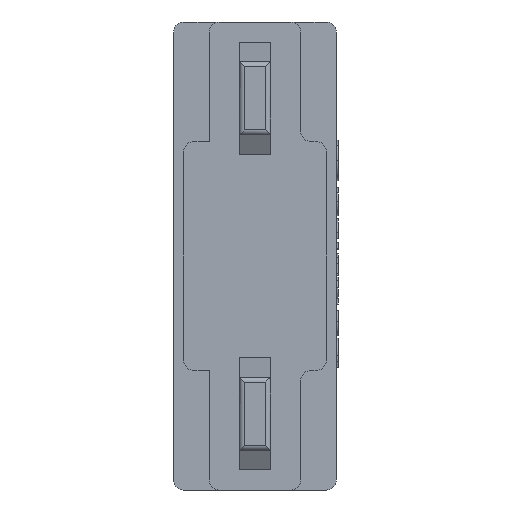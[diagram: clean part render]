
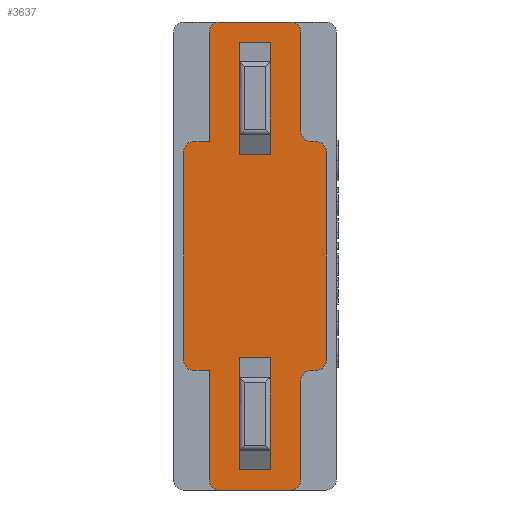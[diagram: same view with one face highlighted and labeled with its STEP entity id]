
A CAD part, front view. The second image highlights one B-rep face of the part: STEP entity #3637.
In plain terms, the highlighted planar face has unit normal (0, -1, 0).
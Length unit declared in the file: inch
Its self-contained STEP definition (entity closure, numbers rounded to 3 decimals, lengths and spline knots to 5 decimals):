
#20=CIRCLE('',#3800,0.01);
#28=CIRCLE('',#3811,0.01);
#29=CIRCLE('',#3814,0.01);
#31=CIRCLE('',#3817,0.01);
#32=CIRCLE('',#3818,0.01);
#33=CIRCLE('',#3819,0.01);
#34=CIRCLE('',#3820,0.01);
#35=CIRCLE('',#3821,0.01);
#36=CIRCLE('',#3822,0.01);
#37=CIRCLE('',#3823,0.01);
#109=FACE_BOUND('',#553,.T.);
#110=FACE_BOUND('',#554,.T.);
#342=FACE_OUTER_BOUND('',#552,.T.);
#552=EDGE_LOOP('',(#3195,#3196,#3197,#3198,#3199,#3200,#3201,#3202,#3203,
#3204,#3205,#3206,#3207,#3208,#3209,#3210,#3211,#3212,#3213,#3214,#3215,
#3216));
#553=EDGE_LOOP('',(#3217,#3218,#3219,#3220));
#554=EDGE_LOOP('',(#3221,#3222,#3223,#3224));
#843=LINE('',#6475,#1191);
#858=LINE('',#6522,#1206);
#860=LINE('',#6527,#1208);
#864=LINE('',#6535,#1212);
#866=LINE('',#6538,#1214);
#867=LINE('',#6541,#1215);
#872=LINE('',#6550,#1220);
#873=LINE('',#6552,#1221);
#883=LINE('',#6591,#1231);
#887=LINE('',#6601,#1235);
#891=LINE('',#6614,#1239);
#892=LINE('',#6618,#1240);
#893=LINE('',#6620,#1241);
#894=LINE('',#6624,#1242);
#895=LINE('',#6627,#1243);
#896=LINE('',#6631,#1244);
#897=LINE('',#6634,#1245);
#898=LINE('',#6638,#1246);
#899=LINE('',#6642,#1247);
#900=LINE('',#6643,#1248);
#1191=VECTOR('',#4297,0.3937);
#1206=VECTOR('',#4342,0.3937);
#1208=VECTOR('',#4348,0.3937);
#1212=VECTOR('',#4356,0.3937);
#1214=VECTOR('',#4360,0.3937);
#1215=VECTOR('',#4363,0.3937);
#1220=VECTOR('',#4372,0.3937);
#1221=VECTOR('',#4375,0.3937);
#1231=VECTOR('',#4409,0.3937);
#1235=VECTOR('',#4419,0.3937);
#1239=VECTOR('',#4431,0.3937);
#1240=VECTOR('',#4434,0.3937);
#1241=VECTOR('',#4435,0.3937);
#1242=VECTOR('',#4438,0.3937);
#1243=VECTOR('',#4441,0.3937);
#1244=VECTOR('',#4444,0.3937);
#1245=VECTOR('',#4447,0.3937);
#1246=VECTOR('',#4450,0.3937);
#1247=VECTOR('',#4453,0.3937);
#1248=VECTOR('',#4454,0.3937);
#1685=VERTEX_POINT('',#6472);
#1686=VERTEX_POINT('',#6474);
#1702=VERTEX_POINT('',#6519);
#1703=VERTEX_POINT('',#6521);
#1704=VERTEX_POINT('',#6526);
#1706=VERTEX_POINT('',#6534);
#1707=VERTEX_POINT('',#6540);
#1709=VERTEX_POINT('',#6548);
#1712=VERTEX_POINT('',#6557);
#1713=VERTEX_POINT('',#6559);
#1726=VERTEX_POINT('',#6590);
#1727=VERTEX_POINT('',#6594);
#1728=VERTEX_POINT('',#6596);
#1729=VERTEX_POINT('',#6600);
#1730=VERTEX_POINT('',#6604);
#1731=VERTEX_POINT('',#6605);
#1734=VERTEX_POINT('',#6613);
#1735=VERTEX_POINT('',#6615);
#1736=VERTEX_POINT('',#6617);
#1737=VERTEX_POINT('',#6619);
#1738=VERTEX_POINT('',#6621);
#1739=VERTEX_POINT('',#6623);
#1740=VERTEX_POINT('',#6626);
#1741=VERTEX_POINT('',#6628);
#1742=VERTEX_POINT('',#6630);
#1743=VERTEX_POINT('',#6633);
#1744=VERTEX_POINT('',#6635);
#1745=VERTEX_POINT('',#6637);
#1746=VERTEX_POINT('',#6639);
#1747=VERTEX_POINT('',#6641);
#2167=EDGE_CURVE('',#1686,#1685,#843,.T.);
#2190=EDGE_CURVE('',#1703,#1702,#858,.T.);
#2192=EDGE_CURVE('',#1685,#1704,#860,.T.);
#2196=EDGE_CURVE('',#1706,#1686,#864,.T.);
#2198=EDGE_CURVE('',#1704,#1706,#866,.T.);
#2199=EDGE_CURVE('',#1707,#1703,#867,.T.);
#2204=EDGE_CURVE('',#1702,#1709,#872,.T.);
#2205=EDGE_CURVE('',#1709,#1707,#873,.T.);
#2208=EDGE_CURVE('',#1712,#1713,#20,.T.);
#2224=EDGE_CURVE('',#1713,#1726,#883,.T.);
#2227=EDGE_CURVE('',#1727,#1728,#28,.T.);
#2229=EDGE_CURVE('',#1729,#1728,#887,.T.);
#2231=EDGE_CURVE('',#1730,#1731,#29,.T.);
#2235=EDGE_CURVE('',#1734,#1730,#891,.T.);
#2236=EDGE_CURVE('',#1735,#1734,#31,.T.);
#2237=EDGE_CURVE('',#1736,#1735,#892,.T.);
#2238=EDGE_CURVE('',#1737,#1736,#893,.T.);
#2239=EDGE_CURVE('',#1738,#1737,#32,.T.);
#2240=EDGE_CURVE('',#1738,#1739,#894,.T.);
#2241=EDGE_CURVE('',#1729,#1739,#33,.T.);
#2242=EDGE_CURVE('',#1740,#1727,#895,.T.);
#2243=EDGE_CURVE('',#1741,#1740,#34,.T.);
#2244=EDGE_CURVE('',#1742,#1741,#896,.T.);
#2245=EDGE_CURVE('',#1726,#1742,#35,.T.);
#2246=EDGE_CURVE('',#1712,#1743,#897,.T.);
#2247=EDGE_CURVE('',#1744,#1743,#36,.T.);
#2248=EDGE_CURVE('',#1744,#1745,#898,.T.);
#2249=EDGE_CURVE('',#1746,#1745,#37,.T.);
#2250=EDGE_CURVE('',#1747,#1746,#899,.T.);
#2251=EDGE_CURVE('',#1731,#1747,#900,.T.);
#3195=ORIENTED_EDGE('',*,*,#2231,.F.);
#3196=ORIENTED_EDGE('',*,*,#2235,.F.);
#3197=ORIENTED_EDGE('',*,*,#2236,.F.);
#3198=ORIENTED_EDGE('',*,*,#2237,.F.);
#3199=ORIENTED_EDGE('',*,*,#2238,.F.);
#3200=ORIENTED_EDGE('',*,*,#2239,.F.);
#3201=ORIENTED_EDGE('',*,*,#2240,.T.);
#3202=ORIENTED_EDGE('',*,*,#2241,.F.);
#3203=ORIENTED_EDGE('',*,*,#2229,.T.);
#3204=ORIENTED_EDGE('',*,*,#2227,.F.);
#3205=ORIENTED_EDGE('',*,*,#2242,.F.);
#3206=ORIENTED_EDGE('',*,*,#2243,.F.);
#3207=ORIENTED_EDGE('',*,*,#2244,.F.);
#3208=ORIENTED_EDGE('',*,*,#2245,.F.);
#3209=ORIENTED_EDGE('',*,*,#2224,.F.);
#3210=ORIENTED_EDGE('',*,*,#2208,.F.);
#3211=ORIENTED_EDGE('',*,*,#2246,.T.);
#3212=ORIENTED_EDGE('',*,*,#2247,.F.);
#3213=ORIENTED_EDGE('',*,*,#2248,.T.);
#3214=ORIENTED_EDGE('',*,*,#2249,.F.);
#3215=ORIENTED_EDGE('',*,*,#2250,.F.);
#3216=ORIENTED_EDGE('',*,*,#2251,.F.);
#3217=ORIENTED_EDGE('',*,*,#2167,.T.);
#3218=ORIENTED_EDGE('',*,*,#2192,.T.);
#3219=ORIENTED_EDGE('',*,*,#2198,.T.);
#3220=ORIENTED_EDGE('',*,*,#2196,.T.);
#3221=ORIENTED_EDGE('',*,*,#2190,.T.);
#3222=ORIENTED_EDGE('',*,*,#2204,.T.);
#3223=ORIENTED_EDGE('',*,*,#2205,.T.);
#3224=ORIENTED_EDGE('',*,*,#2199,.T.);
#3458=PLANE('',#3816);
#3637=ADVANCED_FACE('',(#342,#109,#110),#3458,.T.);
#3800=AXIS2_PLACEMENT_3D('',#6560,#4381,#4382);
#3811=AXIS2_PLACEMENT_3D('',#6597,#4414,#4415);
#3814=AXIS2_PLACEMENT_3D('',#6606,#4423,#4424);
#3816=AXIS2_PLACEMENT_3D('',#6612,#4429,#4430);
#3817=AXIS2_PLACEMENT_3D('',#6616,#4432,#4433);
#3818=AXIS2_PLACEMENT_3D('',#6622,#4436,#4437);
#3819=AXIS2_PLACEMENT_3D('',#6625,#4439,#4440);
#3820=AXIS2_PLACEMENT_3D('',#6629,#4442,#4443);
#3821=AXIS2_PLACEMENT_3D('',#6632,#4445,#4446);
#3822=AXIS2_PLACEMENT_3D('',#6636,#4448,#4449);
#3823=AXIS2_PLACEMENT_3D('',#6640,#4451,#4452);
#4297=DIRECTION('',(0.,0.,1.));
#4342=DIRECTION('',(0.,0.,1.));
#4348=DIRECTION('',(1.,0.,0.));
#4356=DIRECTION('',(-1.,0.,0.));
#4360=DIRECTION('',(0.,0.,-1.));
#4363=DIRECTION('',(-1.,0.,0.));
#4372=DIRECTION('',(1.,0.,0.));
#4375=DIRECTION('',(0.,0.,-1.));
#4381=DIRECTION('center_axis',(0.,-1.,0.));
#4382=DIRECTION('ref_axis',(-0.707,0.,-0.707));
#4409=DIRECTION('',(1.,0.,0.));
#4414=DIRECTION('center_axis',(0.,-1.,0.));
#4415=DIRECTION('ref_axis',(-0.707,0.,0.707));
#4419=DIRECTION('',(0.,0.,1.));
#4423=DIRECTION('center_axis',(0.,1.,0.));
#4424=DIRECTION('ref_axis',(-0.707,0.,0.707));
#4429=DIRECTION('center_axis',(0.,-1.,0.));
#4430=DIRECTION('ref_axis',(1.,0.,0.));
#4431=DIRECTION('',(0.,0.,1.));
#4432=DIRECTION('center_axis',(0.,1.,0.));
#4433=DIRECTION('ref_axis',(-0.707,0.,-0.707));
#4434=DIRECTION('',(-1.,0.,0.));
#4435=DIRECTION('',(0.,0.,1.));
#4436=DIRECTION('center_axis',(0.,1.,0.));
#4437=DIRECTION('ref_axis',(-0.707,0.,-0.707));
#4438=DIRECTION('',(1.,0.,0.));
#4439=DIRECTION('center_axis',(0.,1.,0.));
#4440=DIRECTION('ref_axis',(0.707,0.,-0.707));
#4441=DIRECTION('',(-1.,0.,0.));
#4442=DIRECTION('center_axis',(0.,1.,0.));
#4443=DIRECTION('ref_axis',(0.707,0.,-0.707));
#4444=DIRECTION('',(0.,0.,-1.));
#4445=DIRECTION('center_axis',(0.,1.,0.));
#4446=DIRECTION('ref_axis',(0.707,0.,0.707));
#4447=DIRECTION('',(0.,0.,1.));
#4448=DIRECTION('center_axis',(0.,1.,0.));
#4449=DIRECTION('ref_axis',(0.707,0.,0.707));
#4450=DIRECTION('',(-1.,0.,0.));
#4451=DIRECTION('center_axis',(0.,1.,0.));
#4452=DIRECTION('ref_axis',(-0.707,0.,0.707));
#4453=DIRECTION('',(0.,0.,1.));
#4454=DIRECTION('',(1.,0.,0.));
#6472=CARTESIAN_POINT('',(-0.0155,-0.354,-0.1));
#6474=CARTESIAN_POINT('',(-0.0155,-0.354,-0.21));
#6475=CARTESIAN_POINT('',(-0.0155,-0.354,-0.1925));
#6519=CARTESIAN_POINT('',(-0.0155,-0.354,0.21));
#6521=CARTESIAN_POINT('',(-0.0155,-0.354,0.1));
#6522=CARTESIAN_POINT('',(-0.0155,-0.354,-0.0375));
#6526=CARTESIAN_POINT('',(0.0155,-0.354,-0.1));
#6527=CARTESIAN_POINT('',(-0.0225,-0.354,-0.1));
#6534=CARTESIAN_POINT('',(0.0155,-0.354,-0.21));
#6535=CARTESIAN_POINT('',(-0.0225,-0.354,-0.21));
#6538=CARTESIAN_POINT('',(0.0155,-0.354,-0.1925));
#6540=CARTESIAN_POINT('',(0.0155,-0.354,0.1));
#6541=CARTESIAN_POINT('',(-0.0225,-0.354,0.1));
#6548=CARTESIAN_POINT('',(0.0155,-0.354,0.21));
#6550=CARTESIAN_POINT('',(-0.0225,-0.354,0.21));
#6552=CARTESIAN_POINT('',(0.0155,-0.354,-0.0375));
#6557=CARTESIAN_POINT('',(0.045,-0.354,0.1225));
#6559=CARTESIAN_POINT('',(0.055,-0.354,0.1125));
#6560=CARTESIAN_POINT('Origin',(0.055,-0.354,0.1225));
#6590=CARTESIAN_POINT('',(0.06,-0.354,0.1125));
#6591=CARTESIAN_POINT('',(0.045,-0.354,0.1125));
#6594=CARTESIAN_POINT('',(0.055,-0.354,-0.1125));
#6596=CARTESIAN_POINT('',(0.045,-0.354,-0.1225));
#6597=CARTESIAN_POINT('Origin',(0.055,-0.354,-0.1225));
#6600=CARTESIAN_POINT('',(0.045,-0.354,-0.22));
#6601=CARTESIAN_POINT('',(0.045,-0.354,-0.23));
#6604=CARTESIAN_POINT('',(-0.07,-0.354,0.1025));
#6605=CARTESIAN_POINT('',(-0.06,-0.354,0.1125));
#6606=CARTESIAN_POINT('Origin',(-0.06,-0.354,0.1025));
#6612=CARTESIAN_POINT('Origin',(-0.045,-0.354,-0.23));
#6613=CARTESIAN_POINT('',(-0.07,-0.354,-0.1025));
#6614=CARTESIAN_POINT('',(-0.07,-0.354,0.1125));
#6615=CARTESIAN_POINT('',(-0.06,-0.354,-0.1125));
#6616=CARTESIAN_POINT('Origin',(-0.06,-0.354,-0.1025));
#6617=CARTESIAN_POINT('',(-0.045,-0.354,-0.1125));
#6618=CARTESIAN_POINT('',(0.045,-0.354,-0.1125));
#6619=CARTESIAN_POINT('',(-0.045,-0.354,-0.22));
#6620=CARTESIAN_POINT('',(-0.045,-0.354,-0.23));
#6621=CARTESIAN_POINT('',(-0.035,-0.354,-0.23));
#6622=CARTESIAN_POINT('Origin',(-0.035,-0.354,-0.22));
#6623=CARTESIAN_POINT('',(0.035,-0.354,-0.23));
#6624=CARTESIAN_POINT('',(-0.045,-0.354,-0.23));
#6625=CARTESIAN_POINT('Origin',(0.035,-0.354,-0.22));
#6626=CARTESIAN_POINT('',(0.06,-0.354,-0.1125));
#6627=CARTESIAN_POINT('',(0.045,-0.354,-0.1125));
#6628=CARTESIAN_POINT('',(0.07,-0.354,-0.1025));
#6629=CARTESIAN_POINT('Origin',(0.06,-0.354,-0.1025));
#6630=CARTESIAN_POINT('',(0.07,-0.354,0.1025));
#6631=CARTESIAN_POINT('',(0.07,-0.354,0.1125));
#6632=CARTESIAN_POINT('Origin',(0.06,-0.354,0.1025));
#6633=CARTESIAN_POINT('',(0.045,-0.354,0.22));
#6634=CARTESIAN_POINT('',(0.045,-0.354,-0.23));
#6635=CARTESIAN_POINT('',(0.035,-0.354,0.23));
#6636=CARTESIAN_POINT('Origin',(0.035,-0.354,0.22));
#6637=CARTESIAN_POINT('',(-0.035,-0.354,0.23));
#6638=CARTESIAN_POINT('',(-0.0225,-0.354,0.23));
#6639=CARTESIAN_POINT('',(-0.045,-0.354,0.22));
#6640=CARTESIAN_POINT('Origin',(-0.035,-0.354,0.22));
#6641=CARTESIAN_POINT('',(-0.045,-0.354,0.1125));
#6642=CARTESIAN_POINT('',(-0.045,-0.354,-0.23));
#6643=CARTESIAN_POINT('',(0.045,-0.354,0.1125));
